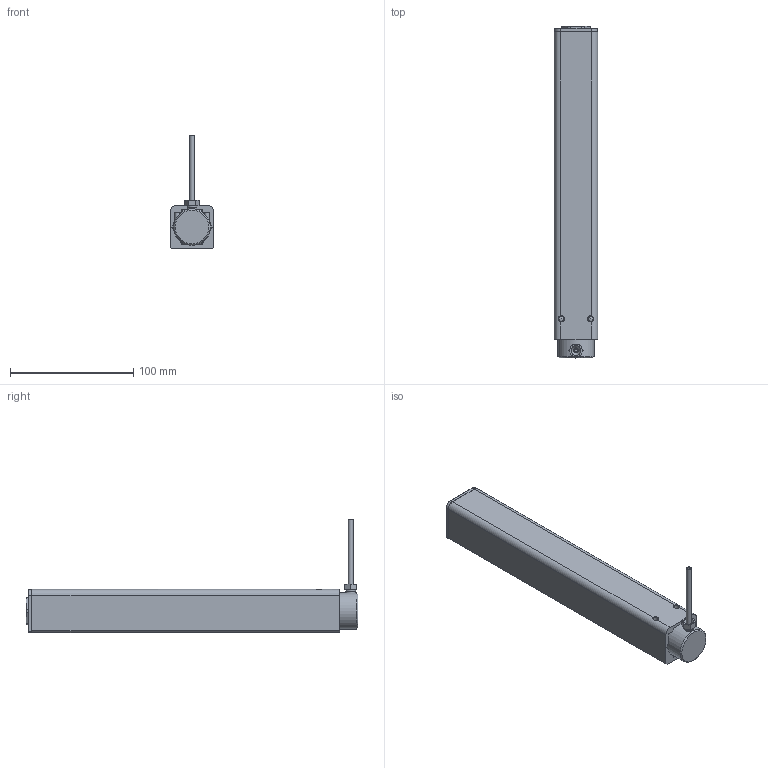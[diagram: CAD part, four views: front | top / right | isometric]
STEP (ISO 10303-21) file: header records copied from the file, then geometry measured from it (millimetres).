
FILE_DESCRIPTION(/* description */ ('Unknown'),/* implementation_level */ '2;1');
FILE_NAME(/* name */ '106.20181 Lineareinheit LA 1815 R_eingefahren',/* time_stamp */ '2017-10-06T10:21:28+02:00',/* author */ ('Unknown'),/* organization */ ('Unknown'),/* preprocessor_version */ 'ST-DEVELOPER v16.7',/* originating_system */ 'DEX',/* authorisation */ $);
FILE_SCHEMA (('AUTOMOTIVE_DESIGN {1 0 10303 214 3 1 1}'));
Products named in the file (11): 106.20181; 119.00001; 142.00014; 142.00021; 125.00021; 115.00008; 125.00062; 122.00018; 125.00051; 123.00001; 113.00002_70mm
Assembly tree (11 placements, depth 2):
  106.20181
    119.00001
    142.00014  x2
    142.00021
    125.00021
    115.00008
    125.00062
    122.00018
    125.00051
    123.00001
    113.00002_70mm
Bounding box: 35 x 269 x 91.75 mm (x, y, z)
Volume: 215130.1 mm3; surface area: 137581.1 mm2
Topology: 10 solids, 10 shells, 810 faces, 1896 edges, 1132 vertices
Faces by surface type: cylinder 280, bspline 224, plane 216, cone 48, torus 29, sphere 13
Full cylindrical faces by diameter (mm): 2.2 x1, 3.5 x2, 4 x7, 4.1 x1, 4.134 x4, 4.2 x1, 6.647 x1, 6.917 x2, 8 x2, 8.376 x1, 14.4 x1, 17.3 x1, 17.9 x2, 19 x2, 20.8 x3, 21 x1, 25 x1, 29.5 x2, 30.63 x1
Entity records: 76038 total; most frequent: CARTESIAN_POINT 59373, ORIENTED_EDGE 3508, DIRECTION 2685, EDGE_CURVE 1754, VERTEX_POINT 1077, AXIS2_PLACEMENT_3D 1045, FACE_BOUND 921, EDGE_LOOP 919
